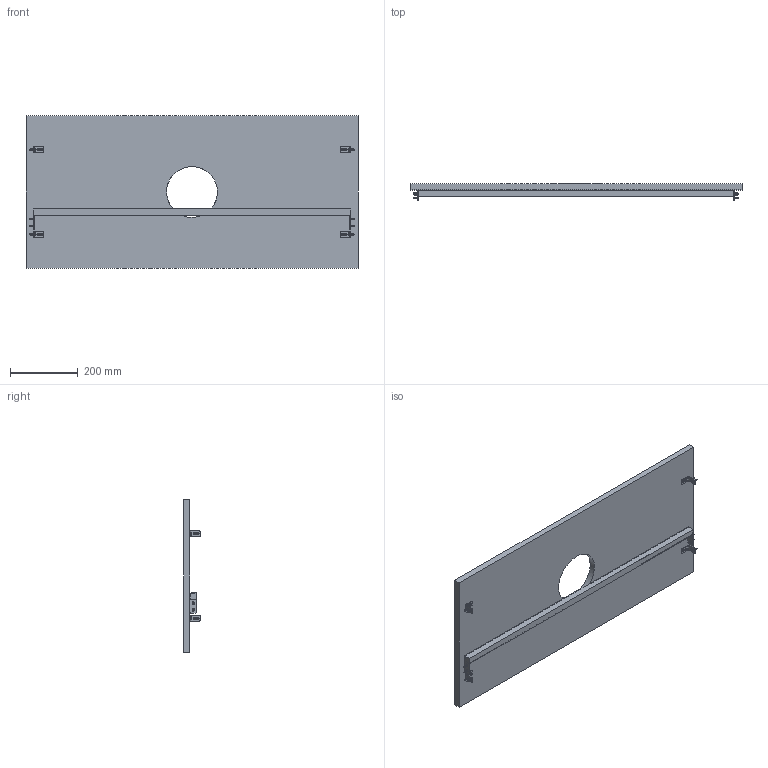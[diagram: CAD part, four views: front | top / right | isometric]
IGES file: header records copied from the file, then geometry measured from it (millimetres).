
Global section: file name: 100cm Tezgah; native system: Autodesk Inventor 2024; preprocessor: unknown; author: pc11; date: 20260625.092942; units: millimetre
Bounding box: 980 x 48 x 450 mm (x, y, z)
Volume: 7767207.3 mm3; surface area: 1060070.7 mm2
Topology: 46 solids, 47 shells, 1175 faces, 2896 edges, 1743 vertices
Faces by surface type: bspline 1175
